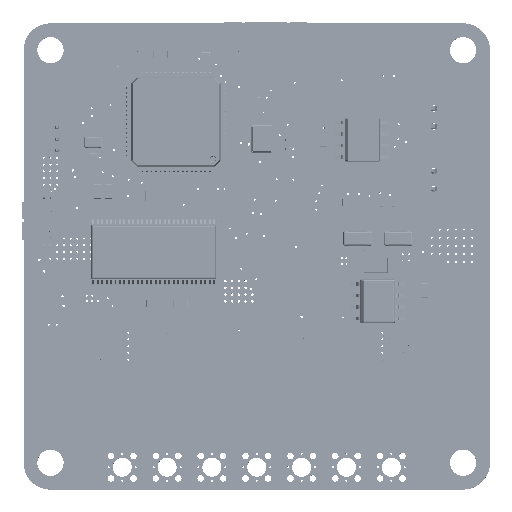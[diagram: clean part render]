
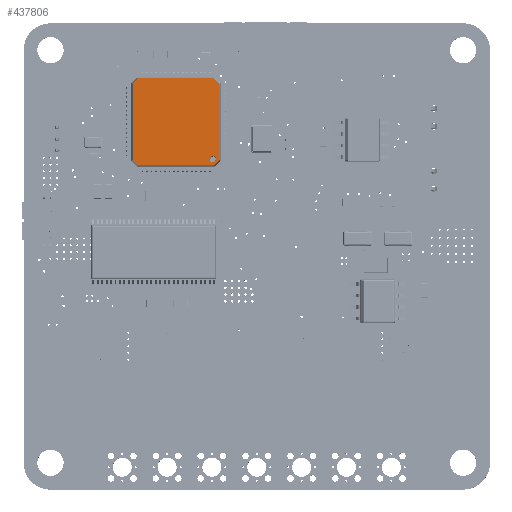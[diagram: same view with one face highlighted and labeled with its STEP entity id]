
A CAD part, top view. The second image highlights one B-rep face of the part: STEP entity #437806.
In plain terms, the highlighted planar face has unit normal (0, 0, 1).
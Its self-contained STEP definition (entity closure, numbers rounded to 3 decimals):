
#9819=FACE_BOUND('',#65412,.T.);
#18632=PLANE('',#470644);
#38325=FACE_OUTER_BOUND('',#65411,.T.);
#65411=EDGE_LOOP('',(#325129,#325130,#325131,#325132,#325133,#325134,#325135,
#325136));
#65412=EDGE_LOOP('',(#325137));
#97078=LINE('',#652946,#144275);
#97079=LINE('',#652948,#144276);
#97080=LINE('',#652950,#144277);
#97081=LINE('',#652952,#144278);
#97082=LINE('',#652954,#144279);
#97083=LINE('',#652956,#144280);
#97084=LINE('',#652958,#144281);
#97085=LINE('',#652959,#144282);
#144275=VECTOR('',#527933,1.);
#144276=VECTOR('',#527934,1.);
#144277=VECTOR('',#527935,1.);
#144278=VECTOR('',#527936,1.);
#144279=VECTOR('',#527937,1.);
#144280=VECTOR('',#527938,1.);
#144281=VECTOR('',#527939,1.);
#144282=VECTOR('',#527940,1.);
#188946=CIRCLE('',#470645,0.35);
#206455=VERTEX_POINT('',#652944);
#206456=VERTEX_POINT('',#652945);
#206457=VERTEX_POINT('',#652947);
#206458=VERTEX_POINT('',#652949);
#206459=VERTEX_POINT('',#652951);
#206460=VERTEX_POINT('',#652953);
#206461=VERTEX_POINT('',#652955);
#206462=VERTEX_POINT('',#652957);
#206463=VERTEX_POINT('',#652960);
#251432=EDGE_CURVE('',#206455,#206456,#97078,.T.);
#251433=EDGE_CURVE('',#206457,#206456,#97079,.F.);
#251434=EDGE_CURVE('',#206457,#206458,#97080,.T.);
#251435=EDGE_CURVE('',#206459,#206458,#97081,.F.);
#251436=EDGE_CURVE('',#206459,#206460,#97082,.T.);
#251437=EDGE_CURVE('',#206461,#206460,#97083,.F.);
#251438=EDGE_CURVE('',#206461,#206462,#97084,.T.);
#251439=EDGE_CURVE('',#206455,#206462,#97085,.F.);
#251440=EDGE_CURVE('',#206463,#206463,#188946,.F.);
#325129=ORIENTED_EDGE('',*,*,#251432,.T.);
#325130=ORIENTED_EDGE('',*,*,#251433,.F.);
#325131=ORIENTED_EDGE('',*,*,#251434,.T.);
#325132=ORIENTED_EDGE('',*,*,#251435,.F.);
#325133=ORIENTED_EDGE('',*,*,#251436,.T.);
#325134=ORIENTED_EDGE('',*,*,#251437,.F.);
#325135=ORIENTED_EDGE('',*,*,#251438,.T.);
#325136=ORIENTED_EDGE('',*,*,#251439,.F.);
#325137=ORIENTED_EDGE('',*,*,#251440,.T.);
#437806=ADVANCED_FACE('',(#38325,#9819),#18632,.T.);
#470644=AXIS2_PLACEMENT_3D('',#652943,#527931,#527932);
#470645=AXIS2_PLACEMENT_3D('',#652961,#527941,#527942);
#527931=DIRECTION('center_axis',(0.,0.,1.));
#527932=DIRECTION('ref_axis',(0.,-1.,0.));
#527933=DIRECTION('',(1.,0.,0.));
#527934=DIRECTION('',(0.707,0.707,0.));
#527935=DIRECTION('',(0.,1.,0.));
#527936=DIRECTION('',(-0.707,0.707,0.));
#527937=DIRECTION('',(-1.,0.,0.));
#527938=DIRECTION('',(-0.707,-0.707,0.));
#527939=DIRECTION('',(0.,-1.,0.));
#527940=DIRECTION('',(0.707,-0.707,0.));
#527941=DIRECTION('center_axis',(0.,0.,1.));
#527942=DIRECTION('ref_axis',(0.,-1.,0.));
#652943=CARTESIAN_POINT('Origin',(0.,0.,1.5));
#652944=CARTESIAN_POINT('',(-4.267,-4.84,1.5));
#652945=CARTESIAN_POINT('',(4.267,-4.84,1.5));
#652946=CARTESIAN_POINT('',(-4.267,-4.84,1.5));
#652947=CARTESIAN_POINT('',(4.84,-4.267,1.5));
#652948=CARTESIAN_POINT('',(4.267,-4.84,1.5));
#652949=CARTESIAN_POINT('',(4.84,4.267,1.5));
#652950=CARTESIAN_POINT('',(4.84,-4.267,1.5));
#652951=CARTESIAN_POINT('',(4.267,4.84,1.5));
#652952=CARTESIAN_POINT('',(4.84,4.267,1.5));
#652953=CARTESIAN_POINT('',(-4.267,4.84,1.5));
#652954=CARTESIAN_POINT('',(4.267,4.84,1.5));
#652955=CARTESIAN_POINT('',(-4.84,4.267,1.5));
#652956=CARTESIAN_POINT('',(-4.267,4.84,1.5));
#652957=CARTESIAN_POINT('',(-4.84,-4.267,1.5));
#652958=CARTESIAN_POINT('',(-4.84,4.267,1.5));
#652959=CARTESIAN_POINT('',(-4.84,-4.267,1.5));
#652960=CARTESIAN_POINT('',(-4.14,4.49,1.5));
#652961=CARTESIAN_POINT('Origin',(-4.14,4.14,1.5));
